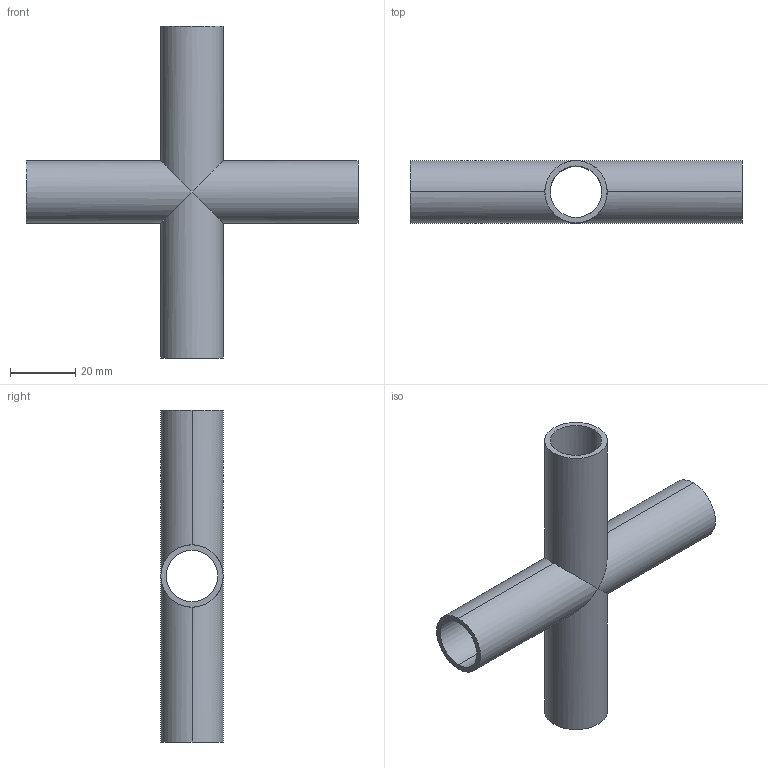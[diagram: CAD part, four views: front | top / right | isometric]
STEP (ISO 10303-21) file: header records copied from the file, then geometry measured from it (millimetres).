
FILE_DESCRIPTION (( 'STEP AP214' ), '1' );
FILE_NAME ('TE9WWWW6L.75-...STEP', '2016-05-22T04:54:15', ( 'eran' ), ( '' ), 'SwSTEP 2.0', 'SolidWorks 2016', '' );
FILE_SCHEMA (( 'AUTOMOTIVE_DESIGN' ));
Length unit declared in the file: millimetre
Products named in the file (1): TE9WWWW6L.75-..
Bounding box: 101.6 x 19.05 x 101.6 mm (x, y, z)
Volume: 16332.5 mm3; surface area: 20131.4 mm2
Topology: 1 solids, 1 shells, 20 faces, 48 edges, 28 vertices
Faces by surface type: cylinder 16, plane 4
Entity records: 618 total; most frequent: CARTESIAN_POINT 145, ORIENTED_EDGE 96, DIRECTION 90, EDGE_CURVE 48, AXIS2_PLACEMENT_3D 37, VERTEX_POINT 28, EDGE_LOOP 24, FACE_OUTER_BOUND 20
